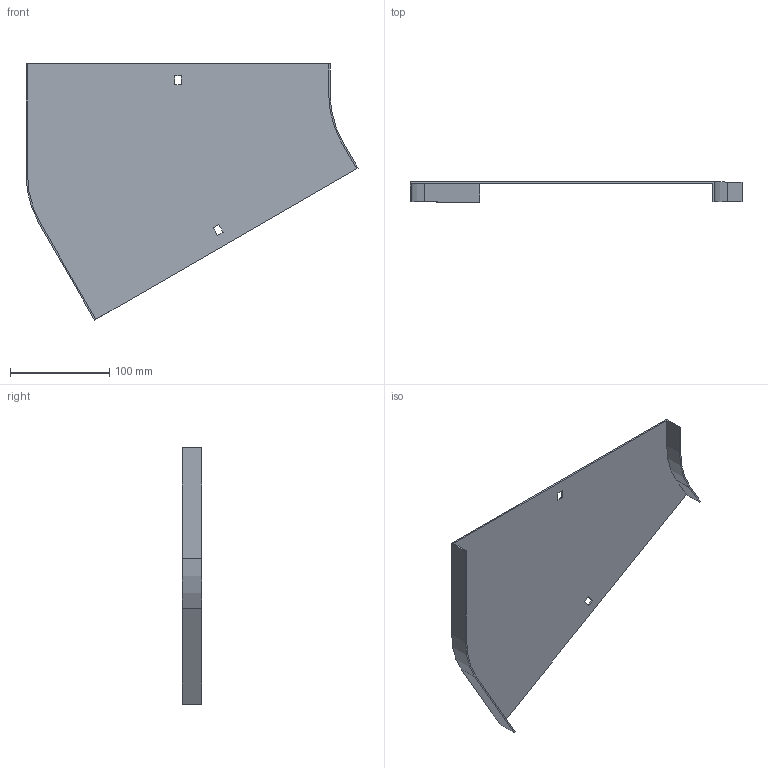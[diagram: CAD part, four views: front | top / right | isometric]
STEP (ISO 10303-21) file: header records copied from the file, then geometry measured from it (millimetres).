
FILE_DESCRIPTION (( 'STEP AP214' ), '1' );
FILE_NAME ('12G1P300.step', '2025-02-21T12:45:27', ( '' ), ( '' ), 'SwSTEP 2.0', 'SolidWorks 2023', '' );
FILE_SCHEMA (( 'AUTOMOTIVE_DESIGN' ));
Length unit declared in the file: millimetre
Products named in the file (1): 12G1P300
Bounding box: 335.2 x 20 x 258.73 mm (x, y, z)
Volume: 100394.6 mm3; surface area: 135566 mm2
Topology: 1 solids, 1 shells, 26 faces, 72 edges, 48 vertices
Faces by surface type: plane 22, cylinder 4
Entity records: 855 total; most frequent: CARTESIAN_POINT 147, ORIENTED_EDGE 144, DIRECTION 134, EDGE_CURVE 72, VECTOR 64, LINE 64, VERTEX_POINT 48, AXIS2_PLACEMENT_3D 35
